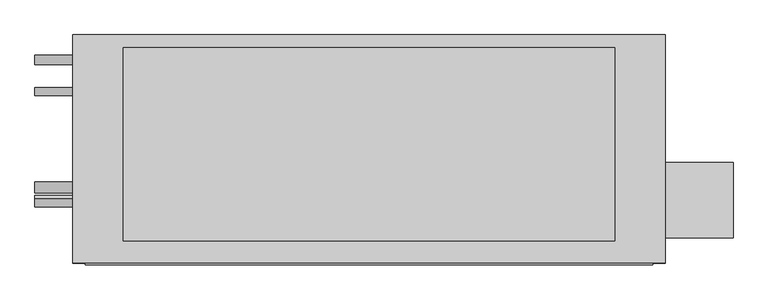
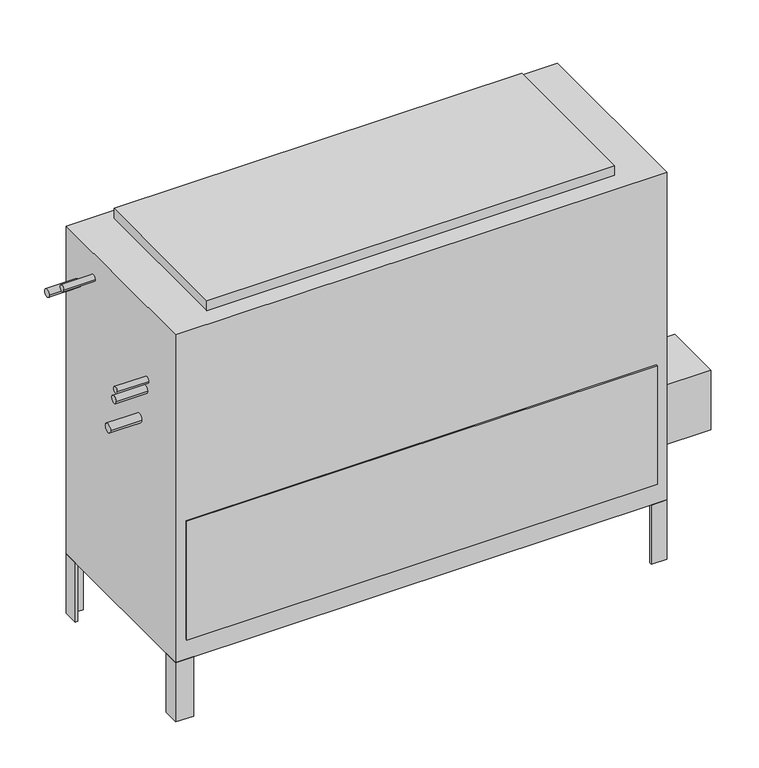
"""IFC4 building model written with IfcOpenShell, lengths in millimetres: proxy geometry, Concealed_High_Capacity_Vertical_Fan_Coil_Unit_-_42DDA_-_CARRIER_-_4-Pipe_LH_2022 : Size 16 - 277v/60Hz/1Ph - 4/2 Coil."""

from ifc_helpers import new_model, si_unit, point, frame, frame_2d, origin, origin_with_axes, place, context, project, spatial, polyline, circle_curve, trimmed, segment, composite_curve, outline, extrude, source, transform, mapped, element, save


def mechanical_equipment_9d42d5b1(model_context):
    return source(origin(), model_context, "Body", "SweptSolid", [
        extrude(outline(polyline([(885.825, -265.1125), (885.825, -417.5125), (749.3, -417.5125), (749.3, -265.1125), (885.825, -265.1125)])), frame((0.0, 0.0, 101.6), z_axis=(0.0, 0.0, 1.0), x_axis=(1.0, 0.0, 0.0)), (0.0, 0.0, 1.0), 152.4),
        extrude(outline(polyline([(749.3, -46.0375), (742.95, -46.0375), (742.95, -14.2875), (711.2, -14.2875), (711.2, -7.9375), (749.3, -7.9375), (749.3, -46.0375)])), frame((0.0, 0.0, -152.4), z_axis=(0.0, 0.0, 1.0), x_axis=(1.0, 0.0, 0.0)), (0.0, 0.0, 1.0), 152.4),
        extrude(outline(polyline([(-406.4, -7.9375), (-406.4, -14.2875), (-438.15, -14.2875), (-438.15, -46.0375), (-444.5, -46.0375), (-444.5, -7.9375), (-406.4, -7.9375)])), frame((0.0, 0.0, -152.4), z_axis=(0.0, 0.0, 1.0), x_axis=(1.0, 0.0, 0.0)), (0.0, 0.0, 1.0), 152.4),
        extrude(outline(polyline([(711.2, -468.3125), (711.2, -461.9625), (742.95, -461.9625), (742.95, -430.2125), (749.3, -430.2125), (749.3, -468.3125), (711.2, -468.3125)])), frame((0.0, 0.0, -152.4), z_axis=(0.0, 0.0, 1.0), x_axis=(1.0, 0.0, 0.0)), (0.0, 0.0, 1.0), 152.4),
        extrude(outline(polyline([(-444.5, -428.1199163), (-438.15, -428.1199163), (-438.15, -461.9625), (-401.0318533, -461.9625), (-401.0318533, -468.3125), (-444.5, -468.3125), (-444.5, -428.1199163)])), frame((0.0, 0.0, -152.4), z_axis=(0.0, 0.0, 1.0), x_axis=(1.0, 0.0, 0.0)), (0.0, 0.0, 1.0), 152.4),
        extrude(outline(polyline([(647.7, -33.3375), (647.7, -423.8625), (-342.9, -423.8625), (-342.9, -33.3375), (647.7, -33.3375)])), frame((0.0, 0.0, 841.375), z_axis=(0.0, 0.0, 1.0), x_axis=(1.0, 0.0, 0.0)), (0.0, 0.0, 1.0), 25.4),
        extrude(outline(polyline([(723.9, -471.4875), (-419.1, -471.4875), (-419.1, -468.3125), (723.9, -468.3125), (723.9, -471.4875)])), frame((0.0, 0.0, 50.8), z_axis=(0.0, 0.0, 1.0), x_axis=(1.0, 0.0, 0.0)), (0.0, 0.0, 1.0), 304.8),
        extrude(outline(composite_curve([segment(trimmed(circle_curve(frame_2d((-122.2375, 777.875)), 7.9375), [point((-130.175, 777.875))], [point((-114.3, 777.875))], False, "CARTESIAN"), True, "CONTINUOUS"), segment(trimmed(circle_curve(frame_2d((-122.2375, 777.875)), 7.9375), [point((-114.3, 777.875))], [point((-130.175, 777.875))], False, "CARTESIAN"), True, "CONTINUOUS")], self_intersect=False)), frame((-520.7, 0.0, 0.0), z_axis=(1.0, 0.0, 0.0), x_axis=(0.0, 1.0, 0.0)), (0.0, 0.0, 1.0), 76.2),
        extrude(outline(composite_curve([segment(trimmed(circle_curve(frame_2d((-347.3848135, 653.2230057)), 7.9375), [point((-355.3223135, 653.2230057))], [point((-339.4473135, 653.2230057))], False, "CARTESIAN"), True, "CONTINUOUS"), segment(trimmed(circle_curve(frame_2d((-347.3848135, 653.2230057)), 7.9375), [point((-339.4473135, 653.2230057))], [point((-355.3223135, 653.2230057))], False, "CARTESIAN"), True, "CONTINUOUS")], self_intersect=False)), frame((-520.7, 0.0, 0.0), z_axis=(1.0, 0.0, 0.0), x_axis=(0.0, 1.0, 0.0)), (0.0, 0.0, 1.0), 76.2),
        extrude(outline(composite_curve([segment(trimmed(circle_curve(frame_2d((-58.7375, 727.075)), 9.525), [point((-68.2625, 727.075))], [point((-49.2125, 727.075))], False, "CARTESIAN"), True, "CONTINUOUS"), segment(trimmed(circle_curve(frame_2d((-58.7375, 727.075)), 9.525), [point((-49.2125, 727.075))], [point((-68.2625, 727.075))], False, "CARTESIAN"), True, "CONTINUOUS")], self_intersect=False)), frame((-520.7, 0.0, 0.0), z_axis=(1.0, 0.0, 0.0), x_axis=(0.0, 1.0, 0.0)), (0.0, 0.0, 1.0), 76.2),
        extrude(outline(composite_curve([segment(trimmed(circle_curve(frame_2d((-341.3125, 625.475)), 9.525), [point((-350.8375, 625.475))], [point((-331.7875, 625.475))], False, "CARTESIAN"), True, "CONTINUOUS"), segment(trimmed(circle_curve(frame_2d((-341.3125, 625.475)), 9.525), [point((-331.7875, 625.475))], [point((-350.8375, 625.475))], False, "CARTESIAN"), True, "CONTINUOUS")], self_intersect=False)), frame((-520.7, 0.0, 0.0), z_axis=(1.0, 0.0, 0.0), x_axis=(0.0, 1.0, 0.0)), (0.0, 0.0, 1.0), 76.2),
        extrude(outline(composite_curve([segment(trimmed(circle_curve(frame_2d((-315.9125, 536.575)), 11.1125), [point((-327.025, 536.575))], [point((-304.8, 536.575))], False, "CARTESIAN"), True, "CONTINUOUS"), segment(trimmed(circle_curve(frame_2d((-315.9125, 536.575)), 11.1125), [point((-304.8, 536.575))], [point((-327.025, 536.575))], False, "CARTESIAN"), True, "CONTINUOUS")], self_intersect=False)), frame((-520.7, 0.0, 0.0), z_axis=(1.0, 0.0, 0.0), x_axis=(0.0, 1.0, 0.0)), (0.0, 0.0, 1.0), 76.2),
        extrude(outline(polyline([(749.3, -7.9375), (749.3, -468.3125), (-444.5, -468.3125), (-444.5, -7.9375), (749.3, -7.9375)])), origin_with_axes(), (0.0, 0.0, 1.0), 841.375),
    ])


if __name__ == "__main__":
    model = new_model("IFC4")
    model_context = context("Model", 3, world=origin())
    ifc_project = project(units=[si_unit("LENGTHUNIT", "METRE", prefix="MILLI")], contexts=[model_context])
    site = spatial("IfcSite", under=ifc_project)
    building = spatial("IfcBuilding", under=site)
    placement = place(None, origin())
    mechanical_equipment_shape = mechanical_equipment_9d42d5b1(model_context)
    element("IfcBuildingElementProxy", 1, Name="Concealed_High_Capacity_Vertical_Fan_Coil_Unit_-_42DDA_-_CARRIER_-_4-Pipe_LH_2022 : Size 16 - 277v/60Hz/1Ph - 4/2 Coil", ObjectType="Concealed_High_Capacity_Vertical_Fan_Coil_Unit_-_42DDA_-_CARRIER_-_4-Pipe_LH_2022 : Size 16 - 277v/60Hz/1Ph - 4/2 Coil", at=placement, inside=building, context=model_context, shape_type="MappedRepresentation", body=[
        mapped(mechanical_equipment_shape, transform((0.0, 0.0, 0.0), x_axis=(1.0, 0.0, 0.0), y_axis=(0.0, 1.0, 0.0), z_axis=(0.0, 0.0, 1.0))),
    ])
    save(model, "model.ifc")
